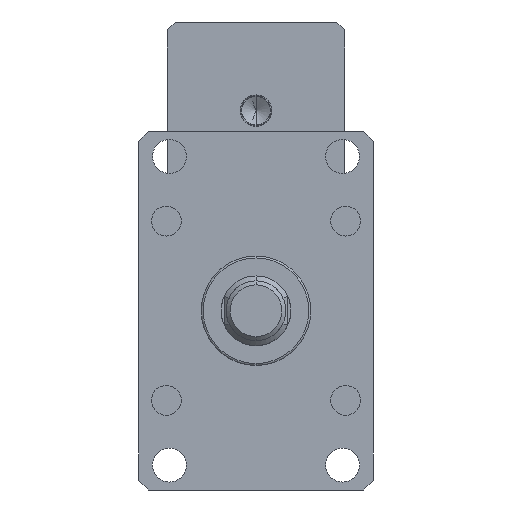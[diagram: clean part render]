
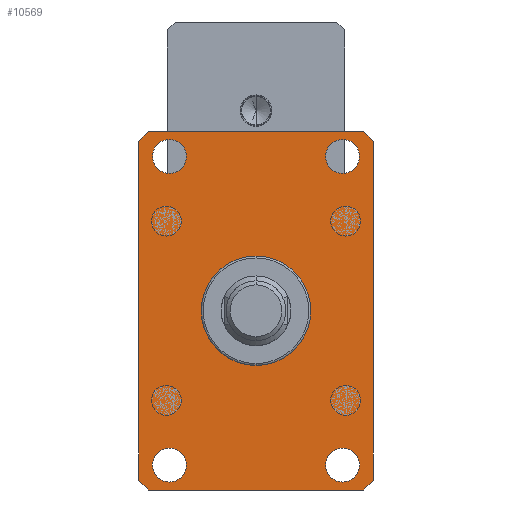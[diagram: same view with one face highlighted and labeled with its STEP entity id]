
A CAD part, front view. The second image highlights one B-rep face of the part: STEP entity #10569.
In plain terms, the highlighted planar face has unit normal (0, -1, 0).
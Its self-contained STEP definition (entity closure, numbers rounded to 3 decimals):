
#133 = ORIENTED_EDGE ( 'NONE', *, *, #12148, .T. ) ;
#138 = ORIENTED_EDGE ( 'NONE', *, *, #297, .T. ) ;
#179 = CIRCLE ( 'NONE', #2574, 8.5 ) ;
#208 = CARTESIAN_POINT ( 'NONE',  ( 43.5, -55., 77.5 ) ) ;
#224 = EDGE_CURVE ( 'NONE', #1993, #4530, #12213, .T. ) ;
#297 = EDGE_CURVE ( 'NONE', #9903, #3683, #10712, .T. ) ;
#348 = PLANE ( 'NONE',  #11748 ) ;
#391 = EDGE_CURVE ( 'NONE', #8456, #4379, #11757, .T. ) ;
#691 = VECTOR ( 'NONE', #5672, 1000. ) ;
#736 = VERTEX_POINT ( 'NONE', #2419 ) ;
#936 = AXIS2_PLACEMENT_3D ( 'NONE', #7592, #1825, #8566 ) ;
#1014 = DIRECTION ( 'NONE',  ( 0., 1., 0. ) ) ;
#1049 = DIRECTION ( 'NONE',  ( 0., 0., -1. ) ) ;
#1146 = DIRECTION ( 'NONE',  ( 0.707, 0., -0.707 ) ) ;
#1217 = DIRECTION ( 'NONE',  ( 0., 0., -1. ) ) ;
#1359 = DIRECTION ( 'NONE',  ( 0., 1., 0. ) ) ;
#1388 = ORIENTED_EDGE ( 'NONE', *, *, #224, .F. ) ;
#1648 = LINE ( 'NONE', #6488, #11602 ) ;
#1654 = DIRECTION ( 'NONE',  ( 0., -1., 0. ) ) ;
#1825 = DIRECTION ( 'NONE',  ( 0., 1., 0. ) ) ;
#1826 = CARTESIAN_POINT ( 'NONE',  ( 59., -55., 85. ) ) ;
#1869 = ORIENTED_EDGE ( 'NONE', *, *, #6689, .T. ) ;
#1993 = VERTEX_POINT ( 'NONE', #8763 ) ;
#2052 = EDGE_CURVE ( 'NONE', #736, #4142, #7877, .T. ) ;
#2139 = EDGE_CURVE ( 'NONE', #8812, #8361, #11786, .T. ) ;
#2208 = VERTEX_POINT ( 'NONE', #7414 ) ;
#2282 = ORIENTED_EDGE ( 'NONE', *, *, #11325, .T. ) ;
#2397 = EDGE_CURVE ( 'NONE', #4379, #8456, #9382, .T. ) ;
#2419 = CARTESIAN_POINT ( 'NONE',  ( -59., -55., -85. ) ) ;
#2554 = VERTEX_POINT ( 'NONE', #1826 ) ;
#2562 = AXIS2_PLACEMENT_3D ( 'NONE', #10158, #4366, #11104 ) ;
#2574 = AXIS2_PLACEMENT_3D ( 'NONE', #4069, #10819, #5039 ) ;
#2578 = EDGE_CURVE ( 'NONE', #8370, #9903, #5907, .T. ) ;
#2991 = CIRCLE ( 'NONE', #6268, 8.5 ) ;
#3054 = DIRECTION ( 'NONE',  ( -0.707, 0., 0.707 ) ) ;
#3157 = CARTESIAN_POINT ( 'NONE',  ( -43.5, -55., 69. ) ) ;
#3304 = AXIS2_PLACEMENT_3D ( 'NONE', #6822, #1014, #7795 ) ;
#3487 = VERTEX_POINT ( 'NONE', #10362 ) ;
#3551 = DIRECTION ( 'NONE',  ( 0., -1., 0. ) ) ;
#3653 = EDGE_LOOP ( 'NONE', ( #9908, #6979 ) ) ;
#3683 = VERTEX_POINT ( 'NONE', #6930 ) ;
#3731 = EDGE_CURVE ( 'NONE', #4530, #1993, #2991, .T. ) ;
#3795 = ORIENTED_EDGE ( 'NONE', *, *, #2578, .T. ) ;
#3940 = CARTESIAN_POINT ( 'NONE',  ( -59., -55., 85. ) ) ;
#4069 = CARTESIAN_POINT ( 'NONE',  ( 43.5, -55., -77.5 ) ) ;
#4113 = CARTESIAN_POINT ( 'NONE',  ( 59., -55., -85. ) ) ;
#4142 = VERTEX_POINT ( 'NONE', #8106 ) ;
#4232 = AXIS2_PLACEMENT_3D ( 'NONE', #9334, #3551, #10309 ) ;
#4366 = DIRECTION ( 'NONE',  ( 0., 1., 0. ) ) ;
#4379 = VERTEX_POINT ( 'NONE', #10471 ) ;
#4530 = VERTEX_POINT ( 'NONE', #8997 ) ;
#4640 = EDGE_LOOP ( 'NONE', ( #8719, #1388 ) ) ;
#4681 = ORIENTED_EDGE ( 'NONE', *, *, #2139, .T. ) ;
#4795 = VERTEX_POINT ( 'NONE', #5701 ) ;
#4851 = EDGE_LOOP ( 'NONE', ( #8890, #8629 ) ) ;
#4930 = CARTESIAN_POINT ( 'NONE',  ( 54., -55., 90. ) ) ;
#5039 = DIRECTION ( 'NONE',  ( 0., 0., 1. ) ) ;
#5042 = EDGE_CURVE ( 'NONE', #3487, #4795, #7216, .T. ) ;
#5133 = FACE_BOUND ( 'NONE', #4851, .T. ) ;
#5261 = CARTESIAN_POINT ( 'NONE',  ( 59., -55., -85. ) ) ;
#5361 = CARTESIAN_POINT ( 'NONE',  ( -43.5, -55., 77.5 ) ) ;
#5590 = ORIENTED_EDGE ( 'NONE', *, *, #6757, .T. ) ;
#5672 = DIRECTION ( 'NONE',  ( 0., 0., 1. ) ) ;
#5701 = CARTESIAN_POINT ( 'NONE',  ( -43.5, -55., -86. ) ) ;
#5756 = FACE_BOUND ( 'NONE', #11011, .T. ) ;
#5907 = LINE ( 'NONE', #6678, #10425 ) ;
#6133 = EDGE_CURVE ( 'NONE', #4795, #3487, #9157, .T. ) ;
#6268 = AXIS2_PLACEMENT_3D ( 'NONE', #208, #7013, #1217 ) ;
#6352 = DIRECTION ( 'NONE',  ( 0., 0., -1. ) ) ;
#6441 = LINE ( 'NONE', #5261, #7032 ) ;
#6488 = CARTESIAN_POINT ( 'NONE',  ( -54., -55., -90. ) ) ;
#6678 = CARTESIAN_POINT ( 'NONE',  ( -54., -55., 90. ) ) ;
#6689 = EDGE_CURVE ( 'NONE', #4142, #2208, #1648, .T. ) ;
#6757 = EDGE_CURVE ( 'NONE', #11773, #2554, #10967, .T. ) ;
#6822 = CARTESIAN_POINT ( 'NONE',  ( -43.5, -55., -77.5 ) ) ;
#6874 = CARTESIAN_POINT ( 'NONE',  ( 43.5, -55., -86. ) ) ;
#6930 = CARTESIAN_POINT ( 'NONE',  ( -59., -55., 85. ) ) ;
#6979 = ORIENTED_EDGE ( 'NONE', *, *, #391, .F. ) ;
#7013 = DIRECTION ( 'NONE',  ( 0., -1., 0. ) ) ;
#7032 = VECTOR ( 'NONE', #12000, 1000. ) ;
#7045 = AXIS2_PLACEMENT_3D ( 'NONE', #5361, #12106, #6352 ) ;
#7216 = CIRCLE ( 'NONE', #936, 8.5 ) ;
#7253 = VECTOR ( 'NONE', #1146, 1000. ) ;
#7414 = CARTESIAN_POINT ( 'NONE',  ( 54., -55., -90. ) ) ;
#7420 = CARTESIAN_POINT ( 'NONE',  ( 43.5, -55., 77.5 ) ) ;
#7592 = CARTESIAN_POINT ( 'NONE',  ( -43.5, -55., -77.5 ) ) ;
#7795 = DIRECTION ( 'NONE',  ( 0., 0., 1. ) ) ;
#7857 = ORIENTED_EDGE ( 'NONE', *, *, #11750, .T. ) ;
#7877 = LINE ( 'NONE', #7922, #7253 ) ;
#7922 = CARTESIAN_POINT ( 'NONE',  ( -59., -55., -85. ) ) ;
#8106 = CARTESIAN_POINT ( 'NONE',  ( -54., -55., -90. ) ) ;
#8115 = DIRECTION ( 'NONE',  ( 0., 0., 1. ) ) ;
#8134 = VECTOR ( 'NONE', #11900, 1000. ) ;
#8361 = VERTEX_POINT ( 'NONE', #6874 ) ;
#8370 = VERTEX_POINT ( 'NONE', #4930 ) ;
#8389 = DIRECTION ( 'NONE',  ( 0., 0., -1. ) ) ;
#8456 = VERTEX_POINT ( 'NONE', #3157 ) ;
#8566 = DIRECTION ( 'NONE',  ( 0., 0., 1. ) ) ;
#8629 = ORIENTED_EDGE ( 'NONE', *, *, #6133, .T. ) ;
#8719 = ORIENTED_EDGE ( 'NONE', *, *, #3731, .F. ) ;
#8763 = CARTESIAN_POINT ( 'NONE',  ( 43.5, -55., 69. ) ) ;
#8812 = VERTEX_POINT ( 'NONE', #12289 ) ;
#8815 = CARTESIAN_POINT ( 'NONE',  ( 54., -55., 90. ) ) ;
#8890 = ORIENTED_EDGE ( 'NONE', *, *, #5042, .T. ) ;
#8997 = CARTESIAN_POINT ( 'NONE',  ( 43.5, -55., 86. ) ) ;
#9129 = VECTOR ( 'NONE', #1049, 1000. ) ;
#9157 = CIRCLE ( 'NONE', #3304, 8.5 ) ;
#9235 = AXIS2_PLACEMENT_3D ( 'NONE', #7420, #1654, #8389 ) ;
#9334 = CARTESIAN_POINT ( 'NONE',  ( -43.5, -55., 77.5 ) ) ;
#9382 = CIRCLE ( 'NONE', #4232, 8.5 ) ;
#9401 = DIRECTION ( 'NONE',  ( 1., 0., 0. ) ) ;
#9419 = EDGE_CURVE ( 'NONE', #2208, #11773, #6441, .T. ) ;
#9903 = VERTEX_POINT ( 'NONE', #10717 ) ;
#9908 = ORIENTED_EDGE ( 'NONE', *, *, #2397, .F. ) ;
#9971 = FACE_BOUND ( 'NONE', #4640, .T. ) ;
#10042 = LINE ( 'NONE', #8815, #10363 ) ;
#10158 = CARTESIAN_POINT ( 'NONE',  ( 43.5, -55., -77.5 ) ) ;
#10291 = FACE_BOUND ( 'NONE', #3653, .T. ) ;
#10309 = DIRECTION ( 'NONE',  ( 0., 0., -1. ) ) ;
#10362 = CARTESIAN_POINT ( 'NONE',  ( -43.5, -55., -69. ) ) ;
#10363 = VECTOR ( 'NONE', #3054, 1000. ) ;
#10378 = ORIENTED_EDGE ( 'NONE', *, *, #9419, .T. ) ;
#10414 = ORIENTED_EDGE ( 'NONE', *, *, #2052, .T. ) ;
#10425 = VECTOR ( 'NONE', #12440, 1000. ) ;
#10471 = CARTESIAN_POINT ( 'NONE',  ( -43.5, -55., 86. ) ) ;
#10482 = CARTESIAN_POINT ( 'NONE',  ( 59., -55., 85. ) ) ;
#10569 = ADVANCED_FACE ( 'NONE', ( #10291, #5756, #5133, #12548, #9971 ), #348, .F. ) ;
#10712 = LINE ( 'NONE', #10929, #8134 ) ;
#10717 = CARTESIAN_POINT ( 'NONE',  ( -54., -55., 90. ) ) ;
#10819 = DIRECTION ( 'NONE',  ( 0., 1., 0. ) ) ;
#10929 = CARTESIAN_POINT ( 'NONE',  ( -59., -55., 85. ) ) ;
#10967 = LINE ( 'NONE', #10482, #691 ) ;
#11011 = EDGE_LOOP ( 'NONE', ( #4681, #7857 ) ) ;
#11104 = DIRECTION ( 'NONE',  ( 0., 0., 1. ) ) ;
#11325 = EDGE_CURVE ( 'NONE', #2554, #8370, #10042, .T. ) ;
#11602 = VECTOR ( 'NONE', #9401, 1000. ) ;
#11703 = LINE ( 'NONE', #3940, #9129 ) ;
#11748 = AXIS2_PLACEMENT_3D ( 'NONE', #11945, #1359, #8115 ) ;
#11750 = EDGE_CURVE ( 'NONE', #8361, #8812, #179, .T. ) ;
#11757 = CIRCLE ( 'NONE', #7045, 8.5 ) ;
#11773 = VERTEX_POINT ( 'NONE', #4113 ) ;
#11786 = CIRCLE ( 'NONE', #2562, 8.5 ) ;
#11900 = DIRECTION ( 'NONE',  ( -0.707, 0., -0.707 ) ) ;
#11945 = CARTESIAN_POINT ( 'NONE',  ( 59., -55., 90. ) ) ;
#11965 = EDGE_LOOP ( 'NONE', ( #3795, #138, #133, #10414, #1869, #10378, #5590, #2282 ) ) ;
#12000 = DIRECTION ( 'NONE',  ( 0.707, 0., 0.707 ) ) ;
#12106 = DIRECTION ( 'NONE',  ( 0., -1., 0. ) ) ;
#12148 = EDGE_CURVE ( 'NONE', #3683, #736, #11703, .T. ) ;
#12213 = CIRCLE ( 'NONE', #9235, 8.5 ) ;
#12289 = CARTESIAN_POINT ( 'NONE',  ( 43.5, -55., -69. ) ) ;
#12440 = DIRECTION ( 'NONE',  ( -1., 0., 0. ) ) ;
#12548 = FACE_OUTER_BOUND ( 'NONE', #11965, .T. ) ;
